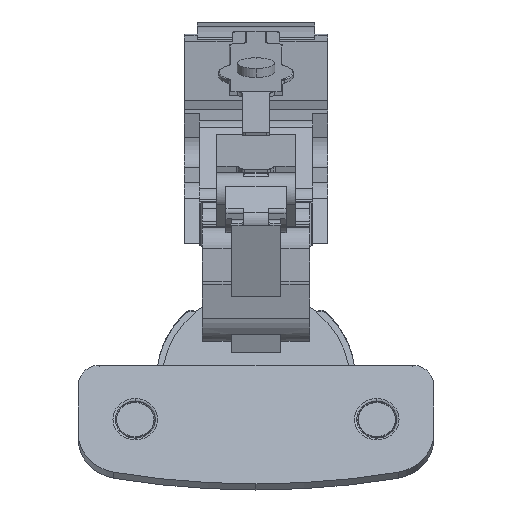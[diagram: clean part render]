
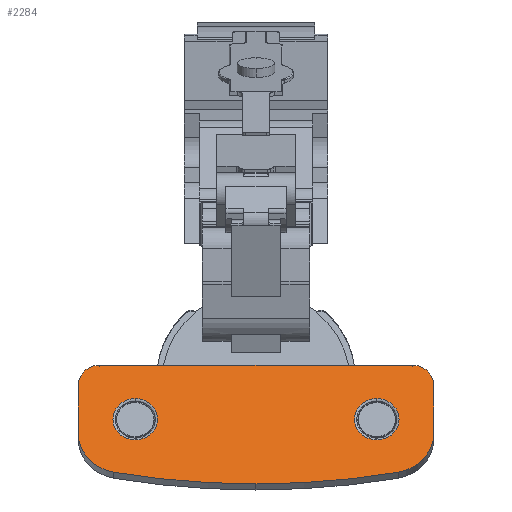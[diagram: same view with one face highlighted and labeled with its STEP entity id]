
A CAD part, top view. The second image highlights one B-rep face of the part: STEP entity #2284.
In plain terms, the highlighted planar face has unit normal (0, 0.375, 0.927).
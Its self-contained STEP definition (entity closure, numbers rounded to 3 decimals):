
#109 = EDGE_CURVE ( 'NONE', #6366, #11160, #9319, .T. ) ;
#201 = VERTEX_POINT ( 'NONE', #16224 ) ;
#234 = DIRECTION ( 'NONE',  ( 0., -0.927, 0.375 ) ) ;
#813 = DIRECTION ( 'NONE',  ( 0., 0.375, 0.927 ) ) ;
#866 = EDGE_CURVE ( 'NONE', #10773, #17022, #27106, .T. ) ;
#1550 = AXIS2_PLACEMENT_3D ( 'NONE', #30340, #1755, #20760 ) ;
#1755 = DIRECTION ( 'NONE',  ( 0., 0.375, 0.927 ) ) ;
#1931 = ORIENTED_EDGE ( 'NONE', *, *, #10950, .T. ) ;
#2252 = ORIENTED_EDGE ( 'NONE', *, *, #14871, .T. ) ;
#2284 = ADVANCED_FACE ( 'NONE', ( #16899, #7162, #11958 ), #11795, .T. ) ;
#2819 = CIRCLE ( 'NONE', #24528, 150. ) ;
#3694 = EDGE_CURVE ( 'NONE', #4964, #10773, #2819, .T. ) ;
#3917 = AXIS2_PLACEMENT_3D ( 'NONE', #5177, #7800, #234 ) ;
#4024 = DIRECTION ( 'NONE',  ( 0., 0.927, -0.375 ) ) ;
#4135 = EDGE_LOOP ( 'NONE', ( #11645, #26935 ) ) ;
#4137 = AXIS2_PLACEMENT_3D ( 'NONE', #5296, #14735, #28785 ) ;
#4305 = VERTEX_POINT ( 'NONE', #21841 ) ;
#4616 = ORIENTED_EDGE ( 'NONE', *, *, #109, .T. ) ;
#4651 = ORIENTED_EDGE ( 'NONE', *, *, #10418, .T. ) ;
#4656 = ORIENTED_EDGE ( 'NONE', *, *, #18291, .T. ) ;
#4964 = VERTEX_POINT ( 'NONE', #22880 ) ;
#5136 = LINE ( 'NONE', #23983, #6015 ) ;
#5146 = CARTESIAN_POINT ( 'NONE',  ( 51.543, 29.007, 101.786 ) ) ;
#5157 = VERTEX_POINT ( 'NONE', #21924 ) ;
#5177 = CARTESIAN_POINT ( 'NONE',  ( 22.443, 149.618, 53.011 ) ) ;
#5296 = CARTESIAN_POINT ( 'NONE',  ( -6.657, 29.007, 101.786 ) ) ;
#5379 = EDGE_CURVE ( 'NONE', #10403, #18637, #29147, .T. ) ;
#5388 = CARTESIAN_POINT ( 'NONE',  ( 44.943, 22.61, 104.372 ) ) ;
#6015 = VECTOR ( 'NONE', #28914, 1000. ) ;
#6164 = CARTESIAN_POINT ( 'NONE',  ( 55.543, 29.007, 101.786 ) ) ;
#6366 = VERTEX_POINT ( 'NONE', #27617 ) ;
#6850 = CIRCLE ( 'NONE', #17230, 4.149 ) ;
#7006 = CIRCLE ( 'NONE', #25767, 4.149 ) ;
#7162 = FACE_BOUND ( 'NONE', #27478, .T. ) ;
#7675 = DIRECTION ( 'NONE',  ( 0., -0.927, 0.375 ) ) ;
#7800 = DIRECTION ( 'NONE',  ( 0., 0.375, 0.927 ) ) ;
#7881 = DIRECTION ( 'NONE',  ( 0., 0.375, 0.927 ) ) ;
#8668 = CARTESIAN_POINT ( 'NONE',  ( -0.057, 22.61, 104.372 ) ) ;
#8730 = ORIENTED_EDGE ( 'NONE', *, *, #19236, .T. ) ;
#8810 = AXIS2_PLACEMENT_3D ( 'NONE', #28311, #14107, #23386 ) ;
#9319 = CIRCLE ( 'NONE', #8810, 4. ) ;
#9941 = VERTEX_POINT ( 'NONE', #26104 ) ;
#9997 = CARTESIAN_POINT ( 'NONE',  ( -0.057, 26.456, 102.817 ) ) ;
#10182 = DIRECTION ( 'NONE',  ( 0., 0.927, -0.375 ) ) ;
#10403 = VERTEX_POINT ( 'NONE', #9997 ) ;
#10418 = EDGE_CURVE ( 'NONE', #9941, #5157, #29707, .T. ) ;
#10773 = VERTEX_POINT ( 'NONE', #27255 ) ;
#10950 = EDGE_CURVE ( 'NONE', #5157, #4964, #14398, .T. ) ;
#11160 = VERTEX_POINT ( 'NONE', #14418 ) ;
#11645 = ORIENTED_EDGE ( 'NONE', *, *, #14982, .F. ) ;
#11795 = PLANE ( 'NONE',  #18599 ) ;
#11958 = FACE_BOUND ( 'NONE', #4135, .T. ) ;
#12399 = DIRECTION ( 'NONE',  ( 1., 0., 0. ) ) ;
#12566 = ORIENTED_EDGE ( 'NONE', *, *, #866, .T. ) ;
#12817 = CARTESIAN_POINT ( 'NONE',  ( 22.443, 149.618, 53.011 ) ) ;
#13295 = EDGE_CURVE ( 'NONE', #27901, #9941, #16981, .T. ) ;
#13474 = EDGE_CURVE ( 'NONE', #18201, #201, #18470, .T. ) ;
#13757 = DIRECTION ( 'NONE',  ( 0., 0.375, 0.927 ) ) ;
#14107 = DIRECTION ( 'NONE',  ( 0., 0.375, 0.927 ) ) ;
#14398 = CIRCLE ( 'NONE', #1550, 8. ) ;
#14418 = CARTESIAN_POINT ( 'NONE',  ( 51.543, 32.715, 100.286 ) ) ;
#14480 = CARTESIAN_POINT ( 'NONE',  ( -0.057, 22.61, 104.372 ) ) ;
#14735 = DIRECTION ( 'NONE',  ( 0., 0.375, 0.927 ) ) ;
#14871 = EDGE_CURVE ( 'NONE', #17022, #4305, #28568, .T. ) ;
#14982 = EDGE_CURVE ( 'NONE', #201, #18201, #6850, .T. ) ;
#16224 = CARTESIAN_POINT ( 'NONE',  ( 44.943, 26.456, 102.817 ) ) ;
#16389 = CARTESIAN_POINT ( 'NONE',  ( 47.543, 20.047, 105.409 ) ) ;
#16538 = DIRECTION ( 'NONE',  ( 0., -0.927, 0.375 ) ) ;
#16692 = CARTESIAN_POINT ( 'NONE',  ( -6.657, 32.715, 100.286 ) ) ;
#16787 = DIRECTION ( 'NONE',  ( 0., 0.927, -0.375 ) ) ;
#16899 = FACE_OUTER_BOUND ( 'NONE', #23188, .T. ) ;
#16981 = CIRCLE ( 'NONE', #4137, 4. ) ;
#17022 = VERTEX_POINT ( 'NONE', #23536 ) ;
#17145 = DIRECTION ( 'NONE',  ( 0., 0.927, -0.375 ) ) ;
#17230 = AXIS2_PLACEMENT_3D ( 'NONE', #5388, #21476, #17145 ) ;
#17614 = DIRECTION ( 'NONE',  ( 0., -0.927, 0.375 ) ) ;
#17756 = LINE ( 'NONE', #6164, #24225 ) ;
#17812 = CARTESIAN_POINT ( 'NONE',  ( 44.943, 22.61, 104.372 ) ) ;
#18201 = VERTEX_POINT ( 'NONE', #21321 ) ;
#18291 = EDGE_CURVE ( 'NONE', #4305, #6366, #17756, .T. ) ;
#18470 = CIRCLE ( 'NONE', #24862, 4.149 ) ;
#18599 = AXIS2_PLACEMENT_3D ( 'NONE', #5146, #26012, #12399 ) ;
#18637 = VERTEX_POINT ( 'NONE', #26676 ) ;
#19236 = EDGE_CURVE ( 'NONE', #11160, #27901, #5136, .T. ) ;
#19286 = AXIS2_PLACEMENT_3D ( 'NONE', #14480, #23899, #16787 ) ;
#19488 = EDGE_CURVE ( 'NONE', #18637, #10403, #7006, .T. ) ;
#19825 = ORIENTED_EDGE ( 'NONE', *, *, #13295, .T. ) ;
#20760 = DIRECTION ( 'NONE',  ( 0., -0.927, 0.375 ) ) ;
#21321 = CARTESIAN_POINT ( 'NONE',  ( 44.943, 18.764, 105.928 ) ) ;
#21476 = DIRECTION ( 'NONE',  ( 0., 0.375, 0.927 ) ) ;
#21675 = AXIS2_PLACEMENT_3D ( 'NONE', #16389, #13757, #16538 ) ;
#21841 = CARTESIAN_POINT ( 'NONE',  ( 55.543, 20.047, 105.409 ) ) ;
#21897 = ORIENTED_EDGE ( 'NONE', *, *, #3694, .T. ) ;
#21923 = ORIENTED_EDGE ( 'NONE', *, *, #19488, .T. ) ;
#21924 = CARTESIAN_POINT ( 'NONE',  ( -10.657, 20.047, 105.409 ) ) ;
#22880 = CARTESIAN_POINT ( 'NONE',  ( -4.071, 12.748, 108.361 ) ) ;
#23188 = EDGE_LOOP ( 'NONE', ( #4616, #8730, #19825, #4651, #1931, #21897, #12566, #2252, #4656 ) ) ;
#23386 = DIRECTION ( 'NONE',  ( 0., -0.927, 0.375 ) ) ;
#23536 = CARTESIAN_POINT ( 'NONE',  ( 48.957, 12.748, 108.361 ) ) ;
#23899 = DIRECTION ( 'NONE',  ( 0., -0.375, -0.927 ) ) ;
#23983 = CARTESIAN_POINT ( 'NONE',  ( -6.657, 32.715, 100.286 ) ) ;
#24225 = VECTOR ( 'NONE', #10182, 1000. ) ;
#24358 = CARTESIAN_POINT ( 'NONE',  ( -10.657, 20.047, 105.409 ) ) ;
#24385 = VECTOR ( 'NONE', #7675, 1000. ) ;
#24528 = AXIS2_PLACEMENT_3D ( 'NONE', #12817, #7881, #17614 ) ;
#24862 = AXIS2_PLACEMENT_3D ( 'NONE', #17812, #813, #27225 ) ;
#25362 = DIRECTION ( 'NONE',  ( 0., -0.375, -0.927 ) ) ;
#25376 = ORIENTED_EDGE ( 'NONE', *, *, #5379, .T. ) ;
#25767 = AXIS2_PLACEMENT_3D ( 'NONE', #8668, #25362, #4024 ) ;
#26012 = DIRECTION ( 'NONE',  ( 0., 0.375, 0.927 ) ) ;
#26104 = CARTESIAN_POINT ( 'NONE',  ( -10.657, 29.007, 101.786 ) ) ;
#26676 = CARTESIAN_POINT ( 'NONE',  ( -0.057, 18.764, 105.928 ) ) ;
#26935 = ORIENTED_EDGE ( 'NONE', *, *, #13474, .F. ) ;
#27106 = CIRCLE ( 'NONE', #3917, 150. ) ;
#27225 = DIRECTION ( 'NONE',  ( 0., 0.927, -0.375 ) ) ;
#27255 = CARTESIAN_POINT ( 'NONE',  ( 22.443, 10.558, 109.246 ) ) ;
#27478 = EDGE_LOOP ( 'NONE', ( #25376, #21923 ) ) ;
#27617 = CARTESIAN_POINT ( 'NONE',  ( 55.543, 29.007, 101.786 ) ) ;
#27901 = VERTEX_POINT ( 'NONE', #16692 ) ;
#28311 = CARTESIAN_POINT ( 'NONE',  ( 51.543, 29.007, 101.786 ) ) ;
#28568 = CIRCLE ( 'NONE', #21675, 8. ) ;
#28785 = DIRECTION ( 'NONE',  ( 0., -0.927, 0.375 ) ) ;
#28914 = DIRECTION ( 'NONE',  ( -1., 0., 0. ) ) ;
#29147 = CIRCLE ( 'NONE', #19286, 4.149 ) ;
#29707 = LINE ( 'NONE', #24358, #24385 ) ;
#30340 = CARTESIAN_POINT ( 'NONE',  ( -2.657, 20.047, 105.409 ) ) ;
